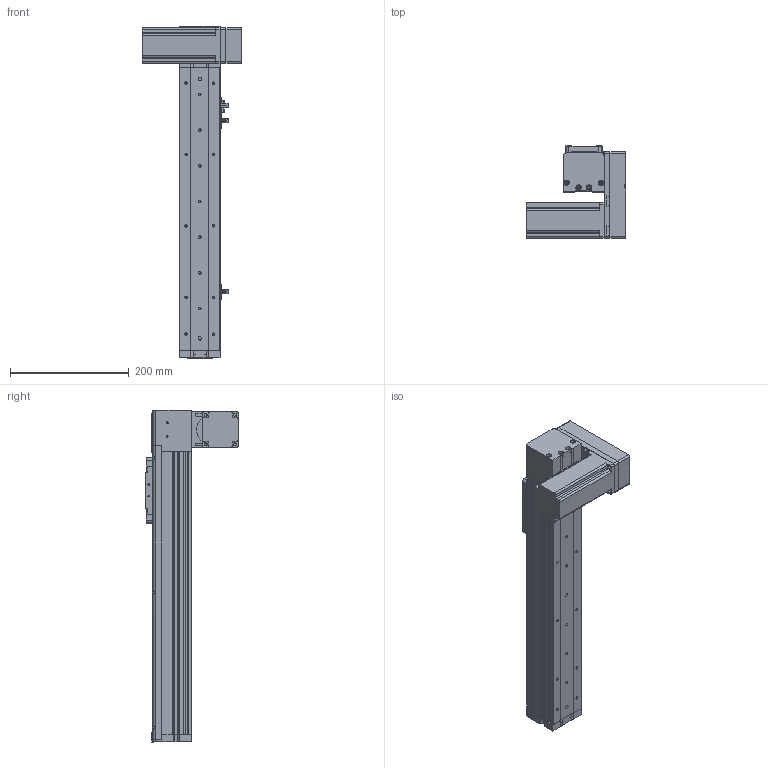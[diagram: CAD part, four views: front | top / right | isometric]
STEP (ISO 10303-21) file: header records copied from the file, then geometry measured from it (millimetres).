
FILE_DESCRIPTION (( 'STEP AP214' ), '1' );
FILE_NAME ('KSD68BS-S300-MLD-CR.STEP', '2019-08-27T03:27:33', ( '微软用户' ), ( '微软中国' ), 'SwSTEP 2.0', 'SolidWorks 2014', '' );
FILE_SCHEMA (( 'AUTOMOTIVE_DESIGN' ));
Length unit declared in the file: millimetre
Products named in the file (14): KSD68BS-S300-MLD-CR; 68遵裔啣揤啣1; KSD68BS 300行程盖板全封闭; 68宽单导轨全封闭丝杆传动安装板1防护罩; KSD68BS 300行程侧板全封闭; 68宽单导轨全封闭同步带端板; 68单导轨全封闭同步带电机座左; 68单导轨全封闭同步带安装板; 悵誘欶奻狟殏; 68宽马达安装板连板上折同步带; 感应片68宽全封闭; U倰嫖萇EEㄜSX672; 台达ECMA－C20604AS伺服电机（400W); KSD68BS 300行程底板全封闭
Assembly tree (17 placements, depth 2):
  KSD68BS-S300-MLD-CR
    KSD68BS 300行程底板全封闭
    台达ECMA－C20604AS伺服电机（400W)
    U倰嫖萇EEㄜSX672  x3
    感应片68宽全封闭
    68宽马达安装板连板上折同步带
    悵誘欶奻狟殏
    68单导轨全封闭同步带安装板
    68单导轨全封闭同步带电机座左
    68宽单导轨全封闭同步带端板
    KSD68BS 300行程侧板全封闭  x2
    68宽单导轨全封闭丝杆传动安装板1防护罩
    68遵裔啣揤啣1  x2
    KSD68BS 300行程盖板全封闭
Bounding box: 167.2 x 155.5 x 558.1 mm (x, y, z)
Volume: 1593710.2 mm3; surface area: 526724.4 mm2
Topology: 18 solids, 18 shells, 1369 faces, 3847 edges, 2476 vertices
Faces by surface type: plane 621, cylinder 616, cone 132
Entity records: 42303 total; most frequent: CARTESIAN_POINT 7127, DIRECTION 6402, ORIENTED_EDGE 6138, EDGE_CURVE 3069, AXIS2_PLACEMENT_3D 2275, VERTEX_POINT 2014, VECTOR 1852, LINE 1852
